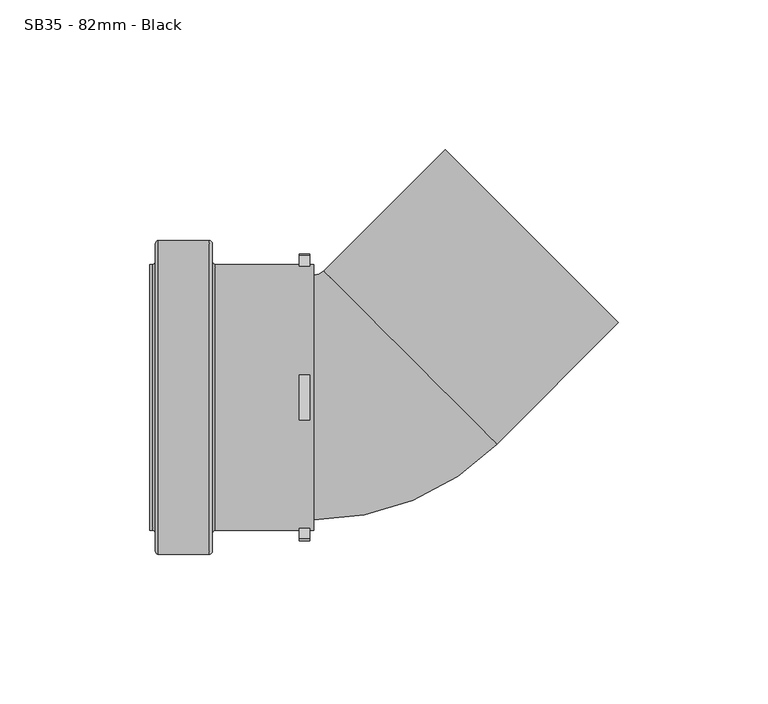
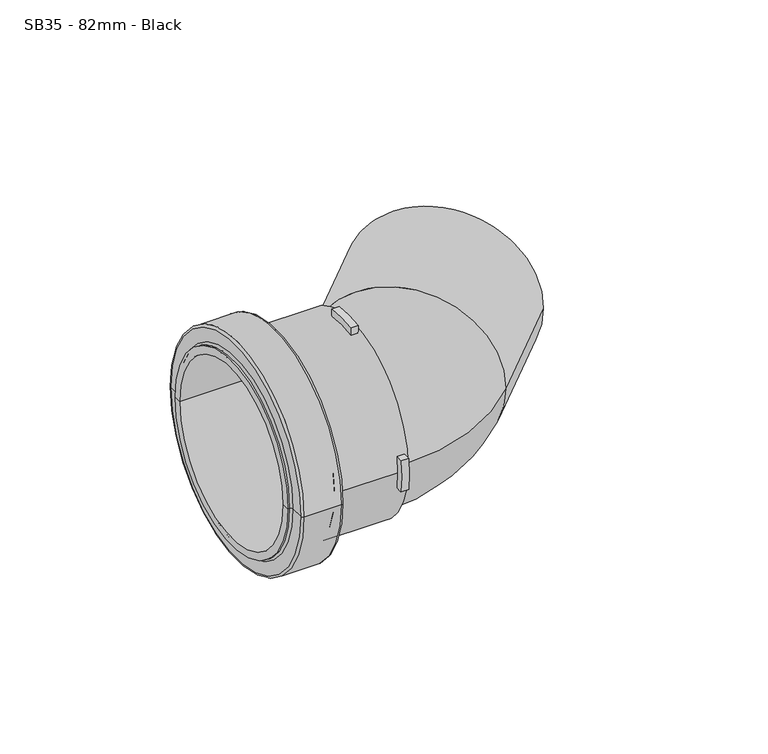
"""IFC4 building model written with IfcOpenShell, lengths in millimetres: pipe fitting geometry, MarleyPlumbingAndDrainage_PipeFitting_ShortRadiusBend45_SB35 : SB35 - 82mm - Black."""

from ifc_helpers import new_model, si_unit, point, frame, origin, place, context, project, spatial, polyline, circle_curve, ellipse_curve, trimmed, source, transform, mapped, element, save
from ifc_brep_helpers import plane_surface, cylinder_surface, revolved_surface, advanced_brep


def sb35_82mm_black_14cfb8ee(model_context):
    return source(origin(), model_context, "Body", "AdvancedBrep", [
        advanced_brep(
        [(-68.6135052, 52.5, 0.0), (-68.6135052, -52.5, 0.0), (-67.6135052, -51.5, 0.0), (-67.6135052, 51.5, 0.0), (-85.6135052, 52.5, 0.0), (-85.6135052, -52.5, 0.0), (-86.6135052, 51.5, 0.0), (-86.6135052, -51.5, 0.0), (-86.6135052, 45.5, 0.0), (-86.6135052, -45.5, 0.0), (-87.6135052, 44.5, 0.0), (-87.6135052, -44.5, 0.0), (-88.6135052, 41.0, 0.0), (-88.6135052, -41.0, 0.0), (-88.6135052, -44.5, 0.0), (-88.6135052, 44.5, 0.0), (-33.6135052, 41.0, 0.0), (-33.6135052, -41.0, 0.0), (-33.6135052, 44.5, 0.0), (-33.6135052, -44.5, 0.0), (-35.1135052, 44.5, 0.0), (-35.1135052, 43.8634244, 7.5), (-38.6135052, 43.8634244, 7.5), (-38.6135052, 44.5, 0.0), (-66.6135052, 44.5, 0.0), (-66.6135052, -44.5, 0.0), (-38.6135052, -44.5, 0.0), (-38.6135052, -43.8634244, 7.5), (-35.1135052, -43.8634244, 7.5), (-35.1135052, -44.5, 0.0), (-38.6135052, -7.5, 43.8634244), (-38.6135052, 7.5, 43.8634244), (-35.1135052, 7.5, 43.8634244), (-35.1135052, -7.5, 43.8634244), (-35.1135052, -43.8634244, -7.5), (-38.6135052, -43.8634244, -7.5), (-38.6135052, 43.8634244, -7.5), (-35.1135052, 43.8634244, -7.5), (-38.6135052, 7.5, -43.8634244), (-38.6135052, -7.5, -43.8634244), (-35.1135052, -7.5, -43.8634244), (-35.1135052, 7.5, -43.8634244), (-67.6135052, 45.5, 0.0), (-67.6135052, -45.5, 0.0), (-38.6135052, 47.4104419, 7.5), (-38.6135052, 47.4104419, -7.5), (-38.6135052, -7.5, 47.4104419), (-38.6135052, 7.5, 47.4104419), (-38.6135052, -47.4104419, -7.5), (-38.6135052, -47.4104419, 7.5), (-38.6135052, 7.5, -47.4104419), (-38.6135052, -7.5, -47.4104419), (-35.1135052, 47.4104419, -7.5), (-35.1135052, 47.4104419, 7.5), (-35.1135052, 7.5, 47.4104419), (-35.1135052, -7.5, 47.4104419), (-35.1135052, -47.4104419, 7.5), (-35.1135052, -47.4104419, -7.5), (-35.1135052, -7.5, -47.4104419), (-35.1135052, 7.5, -47.4104419)],
        [
            (0, 1, circle_curve(frame((-68.6135052, 0.0, 0.0), z_axis=(1.0, 0.0, 0.0), x_axis=(0.0, -1.0, 0.0)), 52.5)),
            (1, 2, circle_curve(frame((-68.6135052, -51.5, 0.0), z_axis=(0.0, 0.0, 1.0), x_axis=(0.0, -1.0, 0.0)), 1.0)),
            (2, 3, circle_curve(frame((-67.6135052, 0.0, 0.0), z_axis=(-1.0, 0.0, 0.0), x_axis=(0.0, -1.0, 0.0)), 51.5)),
            (3, 0, circle_curve(frame((-68.6135052, 51.5, 0.0), z_axis=(0.0, 0.0, 1.0), x_axis=(0.0, 1.0, 0.0)), 1.0)),
            (1, 0, circle_curve(frame((-68.6135052, 0.0, 0.0), z_axis=(1.0, 0.0, 0.0), x_axis=(0.0, -1.0, 0.0)), 52.5)),
            (3, 2, circle_curve(frame((-67.6135052, 0.0, 0.0), z_axis=(-1.0, 0.0, 0.0), x_axis=(0.0, -1.0, 0.0)), 51.5)),
            (0, 4),
            (4, 5, circle_curve(frame((-85.6135052, 0.0, 0.0), z_axis=(1.0, 0.0, 0.0), x_axis=(0.0, -1.0, 0.0)), 52.5)),
            (5, 1),
            (5, 4, circle_curve(frame((-85.6135052, 0.0, 0.0), z_axis=(1.0, 0.0, 0.0), x_axis=(0.0, -1.0, 0.0)), 52.5)),
            (4, 6, circle_curve(frame((-85.6135052, 51.5, 0.0), z_axis=(0.0, 0.0, 1.0), x_axis=(0.0, 1.0, 0.0)), 1.0)),
            (6, 7, circle_curve(frame((-86.6135052, 0.0, 0.0), z_axis=(1.0, 0.0, 0.0), x_axis=(0.0, -1.0, 0.0)), 51.5)),
            (7, 5, circle_curve(frame((-85.6135052, -51.5, 0.0), z_axis=(0.0, 0.0, 1.0), x_axis=(0.0, -1.0, 0.0)), 1.0)),
            (7, 6, circle_curve(frame((-86.6135052, 0.0, 0.0), z_axis=(1.0, 0.0, 0.0), x_axis=(0.0, -1.0, 0.0)), 51.5)),
            (6, 8),
            (8, 9, circle_curve(frame((-86.6135052, 0.0, 0.0), z_axis=(1.0, 0.0, 0.0), x_axis=(0.0, -1.0, 0.0)), 45.5)),
            (9, 7),
            (9, 8, circle_curve(frame((-86.6135052, 0.0, 0.0), z_axis=(1.0, 0.0, 0.0), x_axis=(0.0, -1.0, 0.0)), 45.5)),
            (8, 10, circle_curve(frame((-87.6135052, 45.5, 0.0), z_axis=(0.0, 0.0, -1.0), x_axis=(0.0, 1.0, 0.0)), 1.0)),
            (10, 11, circle_curve(frame((-87.6135052, 0.0, 0.0), z_axis=(1.0, 0.0, 0.0), x_axis=(0.0, -1.0, 0.0)), 44.5)),
            (11, 9, circle_curve(frame((-87.6135052, -45.5, 0.0), z_axis=(0.0, 0.0, -1.0), x_axis=(0.0, -1.0, 0.0)), 1.0)),
            (11, 10, circle_curve(frame((-87.6135052, 0.0, 0.0), z_axis=(1.0, 0.0, 0.0), x_axis=(0.0, -1.0, 0.0)), 44.5)),
            (12, 13, circle_curve(frame((-88.6135052, 0.0, 0.0), z_axis=(1.0, 0.0, 0.0), x_axis=(0.0, -1.0, 0.0)), 41.0)),
            (13, 14),
            (14, 15, circle_curve(frame((-88.6135052, 0.0, 0.0), z_axis=(-1.0, 0.0, 0.0), x_axis=(0.0, -1.0, 0.0)), 44.5)),
            (15, 12),
            (13, 12, circle_curve(frame((-88.6135052, 0.0, 0.0), z_axis=(1.0, 0.0, 0.0), x_axis=(0.0, -1.0, 0.0)), 41.0)),
            (15, 14, circle_curve(frame((-88.6135052, 0.0, 0.0), z_axis=(-1.0, 0.0, 0.0), x_axis=(0.0, -1.0, 0.0)), 44.5)),
            (12, 16),
            (16, 17, circle_curve(frame((-33.6135052, 0.0, 0.0), z_axis=(1.0, 0.0, 0.0), x_axis=(0.0, -1.0, 0.0)), 41.0)),
            (17, 13),
            (17, 16, circle_curve(frame((-33.6135052, 0.0, 0.0), z_axis=(1.0, 0.0, 0.0), x_axis=(0.0, -1.0, 0.0)), 41.0)),
            (16, 18),
            (18, 19, circle_curve(frame((-33.6135052, 0.0, 0.0), z_axis=(1.0, 0.0, 0.0), x_axis=(0.0, -1.0, 0.0)), 44.5)),
            (19, 17),
            (19, 18, circle_curve(frame((-33.6135052, 0.0, 0.0), z_axis=(1.0, 0.0, 0.0), x_axis=(0.0, -1.0, 0.0)), 44.5)),
            (18, 20),
            (20, 21, circle_curve(frame((-35.1135052, 0.0, 0.0), z_axis=(1.0, 0.0, 0.0), x_axis=(0.0, -1.0, 0.0)), 44.5)),
            (21, 22),
            (22, 23, circle_curve(frame((-38.6135052, 0.0, 0.0), z_axis=(-1.0, 0.0, 0.0), x_axis=(0.0, -1.0, 0.0)), 44.5)),
            (23, 24),
            (24, 25, circle_curve(frame((-66.6135052, 0.0, 0.0), z_axis=(1.0, 0.0, 0.0), x_axis=(0.0, -1.0, 0.0)), 44.5)),
            (25, 26),
            (26, 27, circle_curve(frame((-38.6135052, 0.0, 0.0), z_axis=(-1.0, 0.0, 0.0), x_axis=(0.0, -1.0, 0.0)), 44.5)),
            (27, 28),
            (28, 29, circle_curve(frame((-35.1135052, 0.0, 0.0), z_axis=(1.0, 0.0, 0.0), x_axis=(0.0, -1.0, 0.0)), 44.5)),
            (29, 19),
            (30, 31, circle_curve(frame((-38.6135052, 0.0, 0.0), z_axis=(-1.0, 0.0, 0.0), x_axis=(0.0, -1.0, 0.0)), 44.5)),
            (31, 32),
            (32, 33, circle_curve(frame((-35.1135052, 0.0, 0.0), z_axis=(1.0, 0.0, 0.0), x_axis=(0.0, -1.0, 0.0)), 44.5)),
            (33, 30),
            (29, 34, circle_curve(frame((-35.1135052, 0.0, 0.0), z_axis=(1.0, 0.0, 0.0), x_axis=(0.0, -1.0, 0.0)), 44.5)),
            (34, 35),
            (35, 26, circle_curve(frame((-38.6135052, 0.0, 0.0), z_axis=(-1.0, 0.0, 0.0), x_axis=(0.0, -1.0, 0.0)), 44.5)),
            (25, 24, circle_curve(frame((-66.6135052, 0.0, 0.0), z_axis=(1.0, 0.0, 0.0), x_axis=(0.0, -1.0, 0.0)), 44.5)),
            (23, 36, circle_curve(frame((-38.6135052, 0.0, 0.0), z_axis=(-1.0, 0.0, 0.0), x_axis=(0.0, -1.0, 0.0)), 44.5)),
            (36, 37),
            (37, 20, circle_curve(frame((-35.1135052, 0.0, 0.0), z_axis=(1.0, 0.0, 0.0), x_axis=(0.0, -1.0, 0.0)), 44.5)),
            (38, 39, circle_curve(frame((-38.6135052, 0.0, 0.0), z_axis=(-1.0, 0.0, 0.0), x_axis=(0.0, -1.0, 0.0)), 44.5)),
            (39, 40),
            (40, 41, circle_curve(frame((-35.1135052, 0.0, 0.0), z_axis=(1.0, 0.0, 0.0), x_axis=(0.0, -1.0, 0.0)), 44.5)),
            (41, 38),
            (24, 42, circle_curve(frame((-66.6135052, 45.5, 0.0), z_axis=(0.0, 0.0, -1.0), x_axis=(0.0, 1.0, 0.0)), 1.0)),
            (42, 43, circle_curve(frame((-67.6135052, 0.0, 0.0), z_axis=(1.0, 0.0, 0.0), x_axis=(0.0, -1.0, 0.0)), 45.5)),
            (43, 25, circle_curve(frame((-66.6135052, -45.5, 0.0), z_axis=(0.0, 0.0, -1.0), x_axis=(0.0, -1.0, 0.0)), 1.0)),
            (43, 42, circle_curve(frame((-67.6135052, 0.0, 0.0), z_axis=(1.0, 0.0, 0.0), x_axis=(0.0, -1.0, 0.0)), 45.5)),
            (2, 43),
            (42, 3),
            (10, 15),
            (14, 11),
            (22, 44),
            (44, 45, circle_curve(frame((-38.6135052, 0.0, 0.0), z_axis=(-1.0, 0.0, 0.0), x_axis=(0.0, -1.0, 0.0)), 48.0)),
            (45, 36),
            (30, 46),
            (46, 47, circle_curve(frame((-38.6135052, 0.0, 0.0), z_axis=(-1.0, 0.0, 0.0), x_axis=(0.0, -1.0, 0.0)), 48.0)),
            (47, 31),
            (35, 48),
            (48, 49, circle_curve(frame((-38.6135052, 0.0, 0.0), z_axis=(-1.0, 0.0, 0.0), x_axis=(0.0, -1.0, 0.0)), 48.0)),
            (49, 27),
            (38, 50),
            (50, 51, circle_curve(frame((-38.6135052, 0.0, 0.0), z_axis=(-1.0, 0.0, 0.0), x_axis=(0.0, -1.0, 0.0)), 48.0)),
            (51, 39),
            (37, 52),
            (52, 53, circle_curve(frame((-35.1135052, 0.0, 0.0), z_axis=(1.0, 0.0, 0.0), x_axis=(0.0, -1.0, 0.0)), 48.0)),
            (53, 21),
            (32, 54),
            (54, 55, circle_curve(frame((-35.1135052, 0.0, 0.0), z_axis=(1.0, 0.0, 0.0), x_axis=(0.0, -1.0, 0.0)), 48.0)),
            (55, 33),
            (28, 56),
            (56, 57, circle_curve(frame((-35.1135052, 0.0, 0.0), z_axis=(1.0, 0.0, 0.0), x_axis=(0.0, -1.0, 0.0)), 48.0)),
            (57, 34),
            (40, 58),
            (58, 59, circle_curve(frame((-35.1135052, 0.0, 0.0), z_axis=(1.0, 0.0, 0.0), x_axis=(0.0, -1.0, 0.0)), 48.0)),
            (59, 41),
            (53, 44),
            (52, 45),
            (55, 46),
            (54, 47),
            (57, 48),
            (56, 49),
            (59, 50),
            (58, 51),
        ],
        [
            revolved_surface(trimmed(ellipse_curve(frame((-68.6135052, -51.5, 0.0), z_axis=(0.0, 0.0, -1.0), x_axis=(0.0, -1.0, 0.0)), 1.0, 1.0), [point((-67.6135052, -51.5, 0.0))], [point((-68.6135052, -52.5, 0.0))], True, "CARTESIAN"), (-143.6135052, 0.0, 0.0), (-1.0, 0.0, 0.0)),
            cylinder_surface(frame((-143.6135052, 0.0, 0.0), z_axis=(-1.0, 0.0, 0.0), x_axis=(0.0, -1.0, 0.0)), 52.5),
            revolved_surface(trimmed(ellipse_curve(frame((-85.6135052, -51.5, 0.0), z_axis=(0.0, 0.0, -1.0), x_axis=(0.0, -1.0, 0.0)), 1.0, 1.0), [point((-85.6135052, -52.5, 0.0))], [point((-86.6135052, -51.5, 0.0))], True, "CARTESIAN"), (-143.6135052, 0.0, 0.0), (-1.0, 0.0, 0.0)),
            plane_surface(frame((-86.6135052, 0.0, 0.0), z_axis=(-1.0, 0.0, 0.0), x_axis=(0.0, -1.0, 0.0))),
            revolved_surface(trimmed(ellipse_curve(frame((-87.6135052, -45.5, 0.0), z_axis=(0.0, 0.0, 1.0), x_axis=(0.0, -1.0, 0.0)), 1.0, 1.0), [point((-86.6135052, -45.5, 0.0))], [point((-87.6135052, -44.5, 0.0))], True, "CARTESIAN"), (-143.6135052, 0.0, 0.0), (-1.0, 0.0, 0.0)),
            plane_surface(frame((-88.6135052, 0.0, 0.0), z_axis=(-1.0, 0.0, 0.0), x_axis=(0.0, -1.0, 0.0))),
            revolved_surface(polyline([(-88.6135052, -41.0, 0.0), (-33.61350519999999, -41.0, 0.0)]), (-143.6135052, 0.0, 0.0), (-1.0, 0.0, 0.0)),
            plane_surface(frame((-33.6135052, 0.0, 0.0), z_axis=(1.0, 0.0, 0.0), x_axis=(0.0, -1.0, 0.0))),
            cylinder_surface(frame((-143.6135052, 0.0, 0.0), z_axis=(-1.0, 0.0, 0.0), x_axis=(0.0, -1.0, 0.0)), 44.5),
            revolved_surface(trimmed(ellipse_curve(frame((-66.6135052, -45.5, 0.0), z_axis=(0.0, 0.0, 1.0), x_axis=(0.0, -1.0, 0.0)), 1.0, 1.0), [point((-66.6135052, -44.5, 0.0))], [point((-67.6135052, -45.5, 0.0))], True, "CARTESIAN"), (-143.6135052, 0.0, 0.0), (-1.0, 0.0, 0.0)),
            plane_surface(frame((-67.6135052, 0.0, 0.0), z_axis=(1.0, 0.0, 0.0), x_axis=(0.0, -1.0, 0.0))),
            plane_surface(frame((-38.6135052, -44.5, 0.0), z_axis=(-1.0, 0.0, 0.0), x_axis=(0.0, 0.0, -1.0))),
            plane_surface(frame((-35.1135052, -44.5, 0.0), z_axis=(1.0, 0.0, 0.0), x_axis=(0.0, 0.0, 1.0))),
            plane_surface(frame((-38.6135052, 43.8634244, 7.5), z_axis=(0.0, 0.0, 1.0), x_axis=(1.0, 0.0, 0.0))),
            cylinder_surface(frame((-35.1135052, 0.0, 0.0), z_axis=(-1.0, 0.0, 0.0), x_axis=(0.0, -1.0, 0.0)), 48.0),
            plane_surface(frame((-38.6135052, 47.4104419, -7.5), z_axis=(0.0, 0.0, -1.0), x_axis=(1.0, 0.0, 0.0))),
            plane_surface(frame((-38.6135052, -7.5, 43.8634244), z_axis=(0.0, -1.0, 0.0), x_axis=(1.0, 0.0, 0.0))),
            cylinder_surface(frame((-33.6135052, 0.0, 0.0), z_axis=(-1.0, 0.0, 0.0), x_axis=(0.0, -1.0, 0.0)), 48.0),
            plane_surface(frame((-38.6135052, 7.5, 47.4104419), z_axis=(0.0, 1.0, 0.0), x_axis=(1.0, 0.0, 0.0))),
            plane_surface(frame((-38.6135052, -43.8634244, -7.5), z_axis=(0.0, 0.0, -1.0), x_axis=(1.0, 0.0, 0.0))),
            plane_surface(frame((-38.6135052, -47.4104419, 7.5), z_axis=(0.0, 0.0, 1.0), x_axis=(1.0, 0.0, 0.0))),
            plane_surface(frame((-38.6135052, 7.5, -43.8634244), z_axis=(0.0, 1.0, 0.0), x_axis=(1.0, 0.0, 0.0))),
            plane_surface(frame((-38.6135052, -7.5, -47.4104419), z_axis=(0.0, -1.0, 0.0), x_axis=(1.0, 0.0, 0.0))),
        ],
        [
            (0, [[1, 2, 3, 4]]),
            (0, [[-2, 5, -4, 6]]),
            (1, [[-1, 7, 8, 9]]),
            (1, [[-5, -9, 10, -7]]),
            (2, [[-8, 11, 12, 13]]),
            (2, [[-10, -13, 14, -11]]),
            (3, [[-12, 15, 16, 17]]),
            (3, [[-14, -17, 18, -15]]),
            (4, [[-16, 19, 20, 21]]),
            (4, [[-18, -21, 22, -19]]),
            (5, [[23, 24, 25, 26]]),
            (5, [[-24, 27, -26, 28]]),
            (6, [[-23, 29, 30, 31]]),
            (6, [[-27, -31, 32, -29]]),
            (7, [[-30, 33, 34, 35]]),
            (7, [[-32, -35, 36, -33]]),
            (8, [[-34, 37, 38, 39, 40, 41, 42, 43, 44, 45, 46, 47], [48, 49, 50, 51]]),
            (8, [[-36, -47, 52, 53, 54, -43, 55, -41, 56, 57, 58, -37], [59, 60, 61, 62]]),
            (9, [[-42, 63, 64, 65]]),
            (9, [[-55, -65, 66, -63]]),
            (10, [[-3, 67, -64, 68]]),
            (10, [[-6, -68, -66, -67]]),
            (8, [[-20, 69, -25, 70]]),
            (8, [[-22, -70, -28, -69]]),
            (11, [[71, 72, 73, -56, -40]]),
            (11, [[74, 75, 76, -48]]),
            (11, [[77, 78, 79, -44, -54]]),
            (11, [[80, 81, 82, -59]]),
            (12, [[83, 84, 85, -38, -58]]),
            (12, [[86, 87, 88, -50]]),
            (12, [[89, 90, 91, -52, -46]]),
            (12, [[92, 93, 94, -61]]),
            (13, [[-71, -39, -85, 95]]),
            (14, [[-72, -95, -84, 96]]),
            (15, [[-73, -96, -83, -57]]),
            (16, [[-74, -51, -88, 97]]),
            (17, [[-75, -97, -87, 98]]),
            (18, [[-76, -98, -86, -49]]),
            (19, [[-77, -53, -91, 99]]),
            (17, [[-78, -99, -90, 100]]),
            (20, [[-79, -100, -89, -45]]),
            (21, [[-80, -62, -94, 101]]),
            (17, [[-81, -101, -93, 102]]),
            (22, [[-82, -102, -92, -60]]),
        ],
    ),
        advanced_brep(
        [(-33.6135052, -41.0, 0.0), (-33.6135052, 41.0, 0.0), (-30.4315246, 42.3180195, 0.0), (27.5512314, -15.6647366, 0.0), (68.2098713, 24.9939033, 0.0), (10.2271153, 82.9766594, 0.0)],
        [
            (0, 1, circle_curve(frame((-33.6135052, 0.0, 0.0), z_axis=(-1.0, 0.0, 0.0), x_axis=(0.0, 1.0, 0.0)), 41.0)),
            (1, 0, circle_curve(frame((-33.6135052, 0.0, 0.0), z_axis=(-1.0, 0.0, 0.0), x_axis=(0.0, 1.0, 0.0)), 41.0)),
            (2, 1, circle_curve(frame((-33.6135052, 45.5, 0.0), z_axis=(0.0, 0.0, -1.0), x_axis=(0.0, -1.0, 0.0)), 4.5)),
            (0, 3, circle_curve(frame((-33.6135052, 45.5, 0.0), z_axis=(0.0, 0.0, 1.0), x_axis=(0.0, -1.0, 0.0)), 86.5)),
            (3, 2, circle_curve(frame((-1.4401466, 13.3266415, 0.0), z_axis=(-0.7071067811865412, -0.7071067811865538, 0.0), x_axis=(-0.7071067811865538, 0.7071067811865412, 0.0)), 41.0)),
            (2, 3, circle_curve(frame((-1.4401466, 13.3266415, 0.0), z_axis=(-0.7071067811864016, -0.7071067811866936, 0.0), x_axis=(-0.7071067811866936, 0.7071067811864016, 0.0)), 41.0)),
            (4, 5, circle_curve(frame((39.2184933, 53.9852814, 0.0), z_axis=(0.7071067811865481, 0.707106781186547, 0.0), x_axis=(-0.707106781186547, 0.7071067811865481, 0.0)), 41.0)),
            (5, 4, circle_curve(frame((39.2184933, 53.9852814, 0.0), z_axis=(0.7071067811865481, 0.707106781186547, 0.0), x_axis=(-0.707106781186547, 0.7071067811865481, 0.0)), 41.0)),
            (3, 4),
            (5, 2),
        ],
        [
            plane_surface(frame((-33.6135052, 0.0, 0.0), z_axis=(-1.0, 0.0, 0.0), x_axis=(0.0, 0.0, 1.0))),
            revolved_surface(trimmed(ellipse_curve(frame((-33.6135052, 0.0, 0.0), z_axis=(-1.0, 0.0, 0.0), x_axis=(0.0, 1.0, 0.0)), 41.0, 41.0), [point((-33.6135052, -41.0, 0.0))], [point((-33.6135052, 41.0, 0.0))], True, "CARTESIAN"), (-33.6135052, 45.5, 0.0), (0.0, 0.0, 1.0)),
            revolved_surface(trimmed(ellipse_curve(frame((-33.6135052, 0.0, 0.0), z_axis=(-1.0, 0.0, 0.0), x_axis=(0.0, 1.0, 0.0)), 41.0, 41.0), [point((-33.6135052, 41.0, 0.0))], [point((-33.6135052, -41.0, 0.0))], True, "CARTESIAN"), (-33.6135052, 45.5, 0.0), (0.0, 0.0, 1.0)),
            plane_surface(frame((39.2184933, 53.9852814, 0.0), z_axis=(0.7071067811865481, 0.707106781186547, 0.0), x_axis=(0.0, 0.0, 1.0))),
            cylinder_surface(frame((-1.4401466, 13.3266415, 0.0), z_axis=(-0.7071067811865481, -0.707106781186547, 0.0), x_axis=(-0.707106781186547, 0.7071067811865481, 0.0)), 41.0),
        ],
        [
            (0, [[1, 2]]),
            (1, [[3, -1, 4, 5]]),
            (2, [[-4, -2, -3, 6]]),
            (3, [[7, 8]]),
            (4, [[-5, 9, -8, 10]]),
            (4, [[-6, -10, -7, -9]]),
        ],
    ),
    ])


if __name__ == "__main__":
    model = new_model("IFC4")
    model_context = context("Model", 3, world=origin())
    ifc_project = project(units=[si_unit("LENGTHUNIT", "METRE", prefix="MILLI")], contexts=[model_context])
    site = spatial("IfcSite", under=ifc_project)
    building = spatial("IfcBuilding", under=site)
    placement = place(None, origin())
    sb35_82mm_black_shape = sb35_82mm_black_14cfb8ee(model_context)
    element("IfcPipeFitting", 1, ObjectType="MarleyPlumbingAndDrainage_PipeFitting_ShortRadiusBend45_SB35 : SB35 - 82mm - Black", at=placement, inside=building, context=model_context, shape_type="MappedRepresentation", body=[
        mapped(sb35_82mm_black_shape, transform((0.0, 0.0, 0.0), x_axis=(1.0, 0.0, 0.0), y_axis=(0.0, 1.0, 0.0), z_axis=(0.0, 0.0, 1.0))),
    ])
    save(model, "model.ifc")
